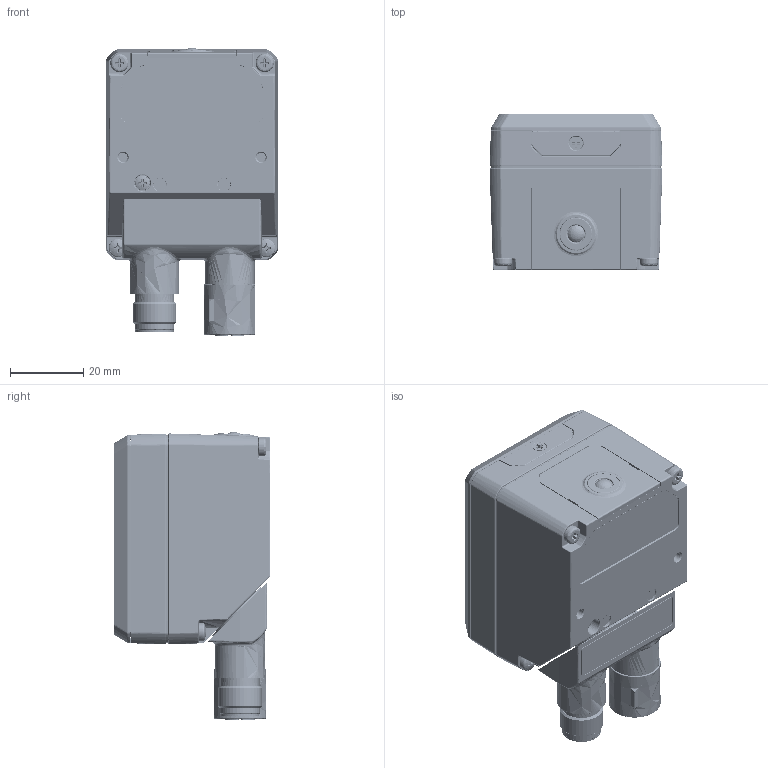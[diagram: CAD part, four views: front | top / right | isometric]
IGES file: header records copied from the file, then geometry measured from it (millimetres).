
Global section: file name: C:\Users\mgiacomazzi\Desktop\M220-DSD-893-ESD-CONN-DIR.igs; native system: NX V10.0; preprocessor: SIEMENS PLM Software NX 10.0; date: 20180319.110913; units: millimetre
Bounding box: 47.09 x 42.55 x 78.44 mm (x, y, z)
Surface area: 65474.9 mm2 (no closed solid volume)
Topology: 0 solids, 0 shells, 3367 faces, 19724 edges, 19354 vertices
Faces by surface type: bspline 3367
